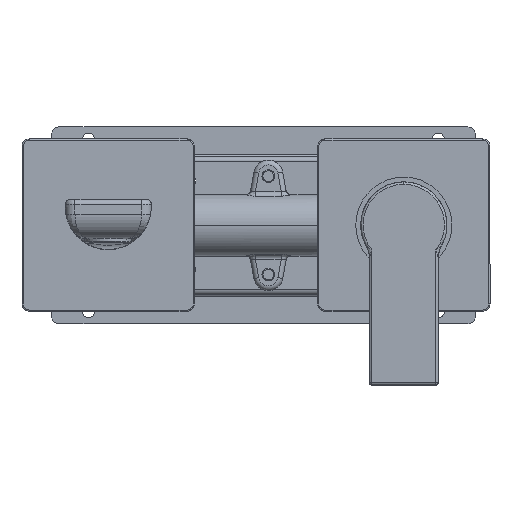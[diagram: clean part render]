
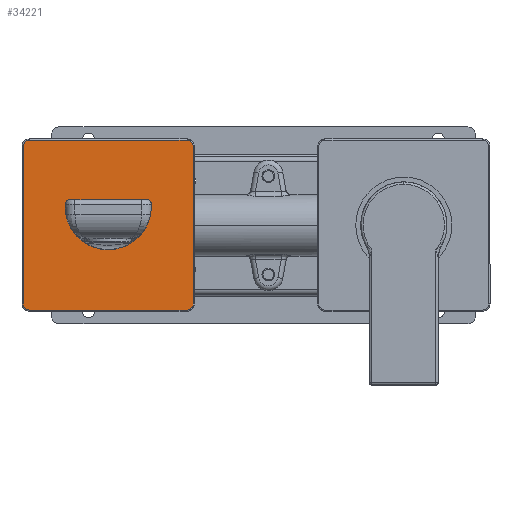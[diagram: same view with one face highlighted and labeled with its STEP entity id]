
A CAD part, top view. The second image highlights one B-rep face of the part: STEP entity #34221.
In plain terms, the highlighted planar face has unit normal (0, 0, 1) as drawn and (0, 0, -1) by its records, which use the part's own axes.
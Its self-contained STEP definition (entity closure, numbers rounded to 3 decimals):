
#188 = CARTESIAN_POINT ( 'NONE',  ( 34.5, 32., 0. ) ) ;
#1056 = CARTESIAN_POINT ( 'NONE',  ( -32., 32., 0. ) ) ;
#1866 = CARTESIAN_POINT ( 'NONE',  ( -32., 34.5, 0. ) ) ;
#1907 = VECTOR ( 'NONE', #25868, 1000. ) ;
#2034 = CARTESIAN_POINT ( 'NONE',  ( -10.25, 0., 0. ) ) ;
#2139 = AXIS2_PLACEMENT_3D ( 'NONE', #39106, #33548, #11925 ) ;
#2196 = ORIENTED_EDGE ( 'NONE', *, *, #3073, .T. ) ;
#2314 = DIRECTION ( 'NONE',  ( 1., 0., 0. ) ) ;
#2318 = PLANE ( 'NONE',  #10096 ) ;
#2690 = ORIENTED_EDGE ( 'NONE', *, *, #23950, .T. ) ;
#3073 = EDGE_CURVE ( 'NONE', #31928, #32876, #12884, .T. ) ;
#3169 = AXIS2_PLACEMENT_3D ( 'NONE', #1056, #22104, #25681 ) ;
#3956 = CARTESIAN_POINT ( 'NONE',  ( -32., -32., 0. ) ) ;
#3963 = CIRCLE ( 'NONE', #26163, 2.5 ) ;
#4602 = CARTESIAN_POINT ( 'NONE',  ( 13.75, 0., 0. ) ) ;
#4733 = EDGE_CURVE ( 'NONE', #29021, #11439, #16636, .T. ) ;
#5041 = EDGE_LOOP ( 'NONE', ( #33353, #21827 ) ) ;
#5263 = VERTEX_POINT ( 'NONE', #21297 ) ;
#5296 = DIRECTION ( 'NONE',  ( 0., 1., 0. ) ) ;
#5986 = CARTESIAN_POINT ( 'NONE',  ( -7.75, 0., 0. ) ) ;
#6595 = VERTEX_POINT ( 'NONE', #4602 ) ;
#6860 = CARTESIAN_POINT ( 'NONE',  ( 0., 0., 0. ) ) ;
#7096 = CARTESIAN_POINT ( 'NONE',  ( 32., -32., 0. ) ) ;
#7168 = CARTESIAN_POINT ( 'NONE',  ( 12., 0., 0. ) ) ;
#7646 = VERTEX_POINT ( 'NONE', #1866 ) ;
#9025 = CARTESIAN_POINT ( 'NONE',  ( -35., 34.5, 0. ) ) ;
#9512 = DIRECTION ( 'NONE',  ( 1., 0., 0. ) ) ;
#9663 = AXIS2_PLACEMENT_3D ( 'NONE', #3956, #16066, #9512 ) ;
#9849 = DIRECTION ( 'NONE',  ( 0., 0., 1. ) ) ;
#10026 = CARTESIAN_POINT ( 'NONE',  ( -12., 0., 0. ) ) ;
#10096 = AXIS2_PLACEMENT_3D ( 'NONE', #26746, #23185, #11239 ) ;
#10331 = ORIENTED_EDGE ( 'NONE', *, *, #11738, .T. ) ;
#10444 = CARTESIAN_POINT ( 'NONE',  ( -34.5, -32., 0. ) ) ;
#10578 = LINE ( 'NONE', #24569, #1907 ) ;
#10689 = ORIENTED_EDGE ( 'NONE', *, *, #18170, .T. ) ;
#10814 = DIRECTION ( 'NONE',  ( 0., -1., 0. ) ) ;
#10922 = VERTEX_POINT ( 'NONE', #188 ) ;
#11215 = EDGE_CURVE ( 'NONE', #32876, #31928, #16407, .T. ) ;
#11239 = DIRECTION ( 'NONE',  ( 1., 0., 0. ) ) ;
#11439 = VERTEX_POINT ( 'NONE', #10444 ) ;
#11445 = FACE_OUTER_BOUND ( 'NONE', #29159, .T. ) ;
#11738 = EDGE_CURVE ( 'NONE', #38715, #7646, #18403, .T. ) ;
#11821 = FACE_BOUND ( 'NONE', #5041, .T. ) ;
#11925 = DIRECTION ( 'NONE',  ( 1., 0., 0. ) ) ;
#11976 = LINE ( 'NONE', #9025, #17527 ) ;
#12125 = VERTEX_POINT ( 'NONE', #28391 ) ;
#12499 = ORIENTED_EDGE ( 'NONE', *, *, #34474, .T. ) ;
#12884 = CIRCLE ( 'NONE', #2139, 7.75 ) ;
#13218 = AXIS2_PLACEMENT_3D ( 'NONE', #6860, #9849, #27715 ) ;
#14765 = CIRCLE ( 'NONE', #15390, 2.5 ) ;
#14905 = ORIENTED_EDGE ( 'NONE', *, *, #35442, .T. ) ;
#15112 = EDGE_CURVE ( 'NONE', #12125, #29119, #14765, .T. ) ;
#15266 = AXIS2_PLACEMENT_3D ( 'NONE', #10026, #30152, #24231 ) ;
#15390 = AXIS2_PLACEMENT_3D ( 'NONE', #7096, #28901, #16812 ) ;
#15395 = EDGE_CURVE ( 'NONE', #11439, #38715, #32469, .T. ) ;
#15831 = CARTESIAN_POINT ( 'NONE',  ( 32., -34.5, 0. ) ) ;
#15952 = VERTEX_POINT ( 'NONE', #2034 ) ;
#16066 = DIRECTION ( 'NONE',  ( 0., 0., -1. ) ) ;
#16407 = CIRCLE ( 'NONE', #13218, 7.75 ) ;
#16477 = CARTESIAN_POINT ( 'NONE',  ( 12., 0., 0. ) ) ;
#16636 = CIRCLE ( 'NONE', #9663, 2.5 ) ;
#16651 = DIRECTION ( 'NONE',  ( 1., 0., 0. ) ) ;
#16780 = CARTESIAN_POINT ( 'NONE',  ( 34.5, 35., 0. ) ) ;
#16812 = DIRECTION ( 'NONE',  ( 1., 0., 0. ) ) ;
#17527 = VECTOR ( 'NONE', #30069, 1000. ) ;
#17795 = VERTEX_POINT ( 'NONE', #24378 ) ;
#17816 = FACE_BOUND ( 'NONE', #26193, .T. ) ;
#18170 = EDGE_CURVE ( 'NONE', #7646, #17795, #11976, .T. ) ;
#18403 = CIRCLE ( 'NONE', #3169, 2.5 ) ;
#19291 = DIRECTION ( 'NONE',  ( 1., 0., 0. ) ) ;
#19383 = ORIENTED_EDGE ( 'NONE', *, *, #28461, .T. ) ;
#19440 = CARTESIAN_POINT ( 'NONE',  ( 10.25, 0., 0. ) ) ;
#20215 = AXIS2_PLACEMENT_3D ( 'NONE', #34866, #22421, #16651 ) ;
#20974 = EDGE_CURVE ( 'NONE', #6595, #24642, #28439, .T. ) ;
#20976 = DIRECTION ( 'NONE',  ( 0., 0., -1. ) ) ;
#21297 = CARTESIAN_POINT ( 'NONE',  ( -13.75, 0., 0. ) ) ;
#21827 = ORIENTED_EDGE ( 'NONE', *, *, #35236, .T. ) ;
#22104 = DIRECTION ( 'NONE',  ( 0., 0., -1. ) ) ;
#22182 = VECTOR ( 'NONE', #10814, 1000. ) ;
#22401 = EDGE_CURVE ( 'NONE', #15952, #5263, #37930, .T. ) ;
#22421 = DIRECTION ( 'NONE',  ( 0., 0., 1. ) ) ;
#22606 = ORIENTED_EDGE ( 'NONE', *, *, #22401, .T. ) ;
#22838 = AXIS2_PLACEMENT_3D ( 'NONE', #7168, #28013, #25044 ) ;
#23185 = DIRECTION ( 'NONE',  ( 0., 0., 1. ) ) ;
#23950 = EDGE_CURVE ( 'NONE', #29119, #29021, #10578, .T. ) ;
#24231 = DIRECTION ( 'NONE',  ( 1., 0., 0. ) ) ;
#24378 = CARTESIAN_POINT ( 'NONE',  ( 32., 34.5, 0. ) ) ;
#24569 = CARTESIAN_POINT ( 'NONE',  ( -35., -34.5, 0. ) ) ;
#24642 = VERTEX_POINT ( 'NONE', #19440 ) ;
#25044 = DIRECTION ( 'NONE',  ( 1., 0., 0. ) ) ;
#25681 = DIRECTION ( 'NONE',  ( 1., 0., 0. ) ) ;
#25868 = DIRECTION ( 'NONE',  ( -1., 0., 0. ) ) ;
#26163 = AXIS2_PLACEMENT_3D ( 'NONE', #38426, #20976, #2314 ) ;
#26193 = EDGE_LOOP ( 'NONE', ( #2196, #32804 ) ) ;
#26350 = FACE_BOUND ( 'NONE', #35739, .T. ) ;
#26746 = CARTESIAN_POINT ( 'NONE',  ( -35., 35., 0. ) ) ;
#27501 = ORIENTED_EDGE ( 'NONE', *, *, #4733, .T. ) ;
#27715 = DIRECTION ( 'NONE',  ( 1., 0., 0. ) ) ;
#28013 = DIRECTION ( 'NONE',  ( 0., 0., 1. ) ) ;
#28391 = CARTESIAN_POINT ( 'NONE',  ( 34.5, -32., 0. ) ) ;
#28439 = CIRCLE ( 'NONE', #33505, 1.75 ) ;
#28461 = EDGE_CURVE ( 'NONE', #17795, #10922, #3963, .T. ) ;
#28901 = DIRECTION ( 'NONE',  ( 0., 0., -1. ) ) ;
#29021 = VERTEX_POINT ( 'NONE', #29960 ) ;
#29086 = ORIENTED_EDGE ( 'NONE', *, *, #15395, .T. ) ;
#29119 = VERTEX_POINT ( 'NONE', #15831 ) ;
#29159 = EDGE_LOOP ( 'NONE', ( #29086, #10331, #10689, #19383, #12499, #34530, #2690, #27501 ) ) ;
#29790 = CIRCLE ( 'NONE', #22838, 1.75 ) ;
#29960 = CARTESIAN_POINT ( 'NONE',  ( -32., -34.5, 0. ) ) ;
#30069 = DIRECTION ( 'NONE',  ( 1., 0., 0. ) ) ;
#30152 = DIRECTION ( 'NONE',  ( 0., 0., 1. ) ) ;
#31182 = DIRECTION ( 'NONE',  ( 0., 0., 1. ) ) ;
#31928 = VERTEX_POINT ( 'NONE', #34195 ) ;
#32370 = CIRCLE ( 'NONE', #15266, 1.75 ) ;
#32469 = LINE ( 'NONE', #32838, #32518 ) ;
#32518 = VECTOR ( 'NONE', #5296, 1000. ) ;
#32804 = ORIENTED_EDGE ( 'NONE', *, *, #11215, .T. ) ;
#32838 = CARTESIAN_POINT ( 'NONE',  ( -34.5, 35., 0. ) ) ;
#32876 = VERTEX_POINT ( 'NONE', #5986 ) ;
#33353 = ORIENTED_EDGE ( 'NONE', *, *, #20974, .T. ) ;
#33505 = AXIS2_PLACEMENT_3D ( 'NONE', #16477, #31182, #19291 ) ;
#33548 = DIRECTION ( 'NONE',  ( 0., 0., 1. ) ) ;
#34195 = CARTESIAN_POINT ( 'NONE',  ( 7.75, 0., 0. ) ) ;
#34221 = ADVANCED_FACE ( 'NONE', ( #11445, #11821, #26350, #17816 ), #2318, .F. ) ;
#34474 = EDGE_CURVE ( 'NONE', #10922, #12125, #37620, .T. ) ;
#34530 = ORIENTED_EDGE ( 'NONE', *, *, #15112, .T. ) ;
#34866 = CARTESIAN_POINT ( 'NONE',  ( -12., 0., 0. ) ) ;
#35236 = EDGE_CURVE ( 'NONE', #24642, #6595, #29790, .T. ) ;
#35442 = EDGE_CURVE ( 'NONE', #5263, #15952, #32370, .T. ) ;
#35739 = EDGE_LOOP ( 'NONE', ( #22606, #14905 ) ) ;
#36701 = CARTESIAN_POINT ( 'NONE',  ( -34.5, 32., 0. ) ) ;
#37620 = LINE ( 'NONE', #16780, #22182 ) ;
#37930 = CIRCLE ( 'NONE', #20215, 1.75 ) ;
#38426 = CARTESIAN_POINT ( 'NONE',  ( 32., 32., 0. ) ) ;
#38715 = VERTEX_POINT ( 'NONE', #36701 ) ;
#39106 = CARTESIAN_POINT ( 'NONE',  ( 0., 0., 0. ) ) ;
